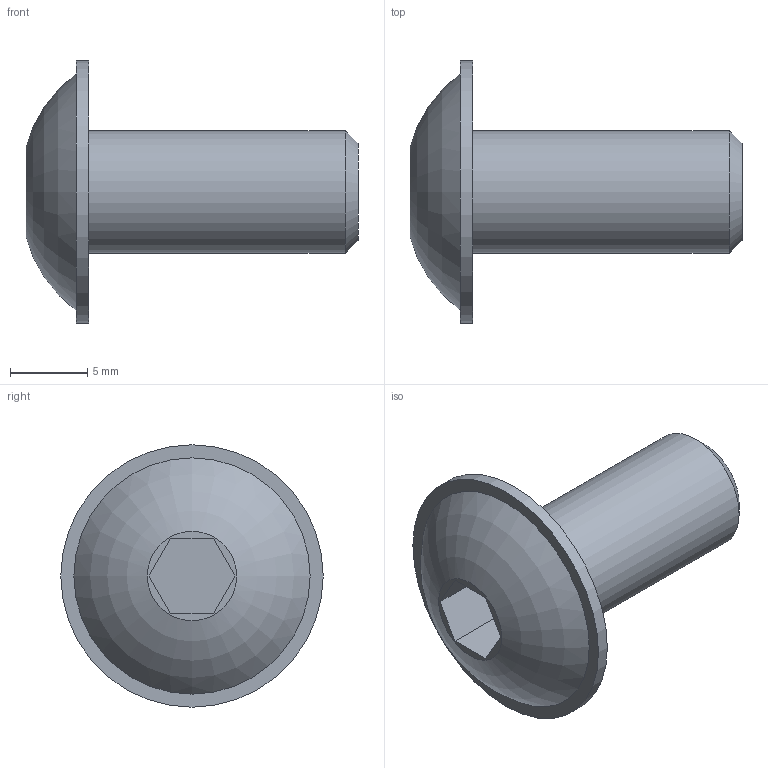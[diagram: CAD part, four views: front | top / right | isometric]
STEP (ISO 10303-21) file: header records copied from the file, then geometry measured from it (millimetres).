
FILE_DESCRIPTION(/* description */ ('STEP AP214'),/* implementation_level */ '2;1');
FILE_NAME(/* name */ '3330',/* time_stamp */ '2023-08-01T17:43:12+02:00',/* author */ ('License CC BY-ND 4.0'),/* organization */ ('CADENAS'),/* preprocessor_version */ 'ST-DEVELOPER v19.3',/* originating_system */ 'PARTsolutions',/* authorisation */ ' ');
FILE_SCHEMA (('AUTOMOTIVE_DESIGN {1 0 10303 214 3 1 1}'));
Length unit declared in the file: inch
Products named in the file (1): 3330
Bounding box: 21.53 x 17.02 x 17.02 mm (x, y, z)
Volume: 1338.7 mm3; surface area: 1024.2 mm2
Topology: 1 solids, 1 shells, 15 faces, 29 edges, 19 vertices
Faces by surface type: plane 11, cylinder 2, torus 1, cone 1
Full cylindrical faces by diameter (mm): 7.938 x1, 17.018 x1
Entity records: 394 total; most frequent: DIRECTION 64, CARTESIAN_POINT 60, ORIENTED_EDGE 50, EDGE_CURVE 25, AXIS2_PLACEMENT_3D 23, EDGE_LOOP 22, FACE_BOUND 22, VERTEX_POINT 19
